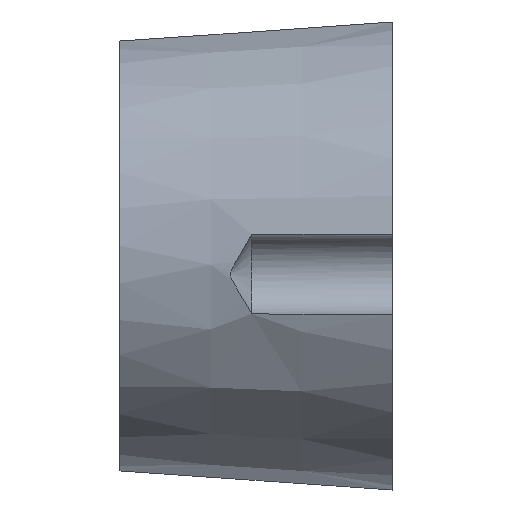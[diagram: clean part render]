
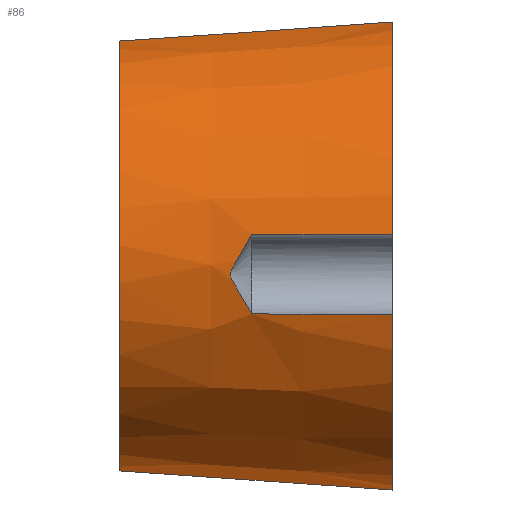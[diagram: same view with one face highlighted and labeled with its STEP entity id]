
A CAD part, top view. The second image highlights one B-rep face of the part: STEP entity #86.
In plain terms, the highlighted conical face has half-angle 4 degrees and reference radius 17.641 mm.
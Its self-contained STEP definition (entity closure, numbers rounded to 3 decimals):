
#86 = ADVANCED_FACE( '', ( #118 ), #119, .T. );
#118 = FACE_OUTER_BOUND( '', #158, .T. );
#119 = CONICAL_SURFACE( '', #159, 17.641, 0.07 );
#158 = EDGE_LOOP( '', ( #279, #280, #281, #282, #283, #284, #285, #286 ) );
#159 = AXIS2_PLACEMENT_3D( '', #287, #288, #289 );
#279 = ORIENTED_EDGE( '', *, *, #391, .F. );
#280 = ORIENTED_EDGE( '', *, *, #373, .F. );
#281 = ORIENTED_EDGE( '', *, *, #346, .F. );
#282 = ORIENTED_EDGE( '', *, *, #387, .T. );
#283 = ORIENTED_EDGE( '', *, *, #357, .T. );
#284 = ORIENTED_EDGE( '', *, *, #375, .F. );
#285 = ORIENTED_EDGE( '', *, *, #392, .F. );
#286 = ORIENTED_EDGE( '', *, *, #344, .F. );
#287 = CARTESIAN_POINT( '', ( -22.3, 0., 0. ) );
#288 = DIRECTION( '', ( 1., 0., 0. ) );
#289 = DIRECTION( '', ( 0., 0., -1. ) );
#344 = EDGE_CURVE( '', #398, #399, #400, .T. );
#346 = EDGE_CURVE( '', #402, #403, #404, .T. );
#357 = EDGE_CURVE( '', #419, #423, #425, .T. );
#373 = EDGE_CURVE( '', #403, #451, #452, .T. );
#375 = EDGE_CURVE( '', #453, #423, #455, .T. );
#387 = EDGE_CURVE( '', #402, #419, #475, .T. );
#391 = EDGE_CURVE( '', #451, #398, #481, .T. );
#392 = EDGE_CURVE( '', #399, #453, #482, .T. );
#398 = VERTEX_POINT( '', #488 );
#399 = VERTEX_POINT( '', #489 );
#400 = B_SPLINE_CURVE_WITH_KNOTS( '', 3, ( #490, #491, #492, #493, #494, #495, #496, #497, #498, #499, #500, #501, #502, #503, #504, #505, #506, #507, #508, #509, #510, #511 ), .UNSPECIFIED., .F., .F., ( 4, 2, 2, 2, 2, 2, 2, 2, 2, 2, 4 ), ( 0., 0.002, 0.003, 0.003, 0.004, 0.004, 0.004, 0.004, 0.005, 0.006, 0.007 ), .UNSPECIFIED. );
#402 = VERTEX_POINT( '', #513 );
#403 = VERTEX_POINT( '', #514 );
#404 = B_SPLINE_CURVE_WITH_KNOTS( '', 3, ( #515, #516, #517, #518, #519, #520 ), .UNSPECIFIED., .F., .F., ( 4, 2, 4 ), ( 0., 0.011, 0.022 ), .UNSPECIFIED. );
#419 = VERTEX_POINT( '', #549 );
#423 = VERTEX_POINT( '', #555 );
#425 = B_SPLINE_CURVE_WITH_KNOTS( '', 3, ( #558, #559, #560, #561, #562, #563, #564 ), .UNSPECIFIED., .F., .F., ( 4, 3, 4 ), ( 0.031, 0.033, 0.053 ), .UNSPECIFIED. );
#451 = VERTEX_POINT( '', #600 );
#452 = CIRCLE( '', #601, 19.2 );
#453 = VERTEX_POINT( '', #602 );
#455 = CIRCLE( '', #604, 19.2 );
#475 = CIRCLE( '', #630, 17.641 );
#481 = B_SPLINE_CURVE_WITH_KNOTS( '', 3, ( #663, #664, #665, #666 ), .UNSPECIFIED., .F., .F., ( 4, 4 ), ( 0., 0.012 ), .UNSPECIFIED. );
#482 = B_SPLINE_CURVE_WITH_KNOTS( '', 3, ( #667, #668, #669, #670 ), .UNSPECIFIED., .F., .F., ( 4, 4 ), ( 0., 0.012 ), .UNSPECIFIED. );
#488 = CARTESIAN_POINT( '', ( -11.5, 1.688, 18.318 ) );
#489 = CARTESIAN_POINT( '', ( -11.5, -4.832, 17.75 ) );
#490 = CARTESIAN_POINT( '', ( -11.5, 1.688, 18.318 ) );
#491 = CARTESIAN_POINT( '', ( -11.812, 1.148, 18.346 ) );
#492 = CARTESIAN_POINT( '', ( -12.124, 0.608, 18.35 ) );
#493 = CARTESIAN_POINT( '', ( -12.59, -0.203, 18.321 ) );
#494 = CARTESIAN_POINT( '', ( -12.745, -0.473, 18.305 ) );
#495 = CARTESIAN_POINT( '', ( -12.972, -0.881, 18.272 ) );
#496 = CARTESIAN_POINT( '', ( -13.047, -1.017, 18.26 ) );
#497 = CARTESIAN_POINT( '', ( -13.151, -1.226, 18.239 ) );
#498 = CARTESIAN_POINT( '', ( -13.184, -1.296, 18.232 ) );
#499 = CARTESIAN_POINT( '', ( -13.238, -1.442, 18.217 ) );
#500 = CARTESIAN_POINT( '', ( -13.258, -1.518, 18.21 ) );
#501 = CARTESIAN_POINT( '', ( -13.255, -1.674, 18.196 ) );
#502 = CARTESIAN_POINT( '', ( -13.233, -1.749, 18.191 ) );
#503 = CARTESIAN_POINT( '', ( -13.177, -1.894, 18.18 ) );
#504 = CARTESIAN_POINT( '', ( -13.143, -1.964, 18.175 ) );
#505 = CARTESIAN_POINT( '', ( -13.039, -2.172, 18.159 ) );
#506 = CARTESIAN_POINT( '', ( -12.964, -2.307, 18.148 ) );
#507 = CARTESIAN_POINT( '', ( -12.738, -2.712, 18.109 ) );
#508 = CARTESIAN_POINT( '', ( -12.584, -2.98, 18.078 ) );
#509 = CARTESIAN_POINT( '', ( -12.121, -3.779, 17.967 ) );
#510 = CARTESIAN_POINT( '', ( -11.811, -4.307, 17.87 ) );
#511 = CARTESIAN_POINT( '', ( -11.5, -4.832, 17.75 ) );
#513 = CARTESIAN_POINT( '', ( -22.3, 17.483, 2.355 ) );
#514 = CARTESIAN_POINT( '', ( 0., 19.039, 2.483 ) );
#515 = CARTESIAN_POINT( '', ( -22.3, 17.483, 2.355 ) );
#516 = CARTESIAN_POINT( '', ( -18.583, 17.731, 2.458 ) );
#517 = CARTESIAN_POINT( '', ( -14.866, 17.985, 2.519 ) );
#518 = CARTESIAN_POINT( '', ( -7.432, 18.504, 2.563 ) );
#519 = CARTESIAN_POINT( '', ( -3.716, 18.768, 2.546 ) );
#520 = CARTESIAN_POINT( '', ( 0., 19.039, 2.483 ) );
#549 = CARTESIAN_POINT( '', ( -22.3, -17.625, 0.75 ) );
#555 = CARTESIAN_POINT( '', ( 0., -19.185, 0.75 ) );
#558 = CARTESIAN_POINT( '', ( -22.3, -17.625, 0.75 ) );
#559 = CARTESIAN_POINT( '', ( -21.395, -17.688, 0.75 ) );
#560 = CARTESIAN_POINT( '', ( -20.489, -17.751, 0.75 ) );
#561 = CARTESIAN_POINT( '', ( -19.584, -17.815, 0.75 ) );
#562 = CARTESIAN_POINT( '', ( -13.056, -18.272, 0.75 ) );
#563 = CARTESIAN_POINT( '', ( -6.528, -18.729, 0.75 ) );
#564 = CARTESIAN_POINT( '', ( 0., -19.185, 0.75 ) );
#600 = CARTESIAN_POINT( '', ( 0., 1.622, 19.131 ) );
#601 = AXIS2_PLACEMENT_3D( '', #720, #721, #722 );
#602 = CARTESIAN_POINT( '', ( 0., -4.907, 18.562 ) );
#604 = AXIS2_PLACEMENT_3D( '', #726, #727, #728 );
#630 = AXIS2_PLACEMENT_3D( '', #750, #751, #752 );
#663 = CARTESIAN_POINT( '', ( 0., 1.622, 19.131 ) );
#664 = CARTESIAN_POINT( '', ( -3.833, 1.679, 18.858 ) );
#665 = CARTESIAN_POINT( '', ( -7.666, 1.7, 18.586 ) );
#666 = CARTESIAN_POINT( '', ( -11.5, 1.688, 18.318 ) );
#667 = CARTESIAN_POINT( '', ( -11.5, -4.832, 17.75 ) );
#668 = CARTESIAN_POINT( '', ( -7.666, -4.889, 18.012 ) );
#669 = CARTESIAN_POINT( '', ( -3.833, -4.916, 18.283 ) );
#670 = CARTESIAN_POINT( '', ( 0., -4.907, 18.562 ) );
#720 = CARTESIAN_POINT( '', ( 0., 0., 0. ) );
#721 = DIRECTION( '', ( 1., 0., 0. ) );
#722 = DIRECTION( '', ( 0., 0., -1. ) );
#726 = CARTESIAN_POINT( '', ( 0., 0., 0. ) );
#727 = DIRECTION( '', ( 1., 0., 0. ) );
#728 = DIRECTION( '', ( 0., 0., -1. ) );
#750 = CARTESIAN_POINT( '', ( -22.3, 0., 0. ) );
#751 = DIRECTION( '', ( 1., 0., 0. ) );
#752 = DIRECTION( '', ( 0., 0., -1. ) );
